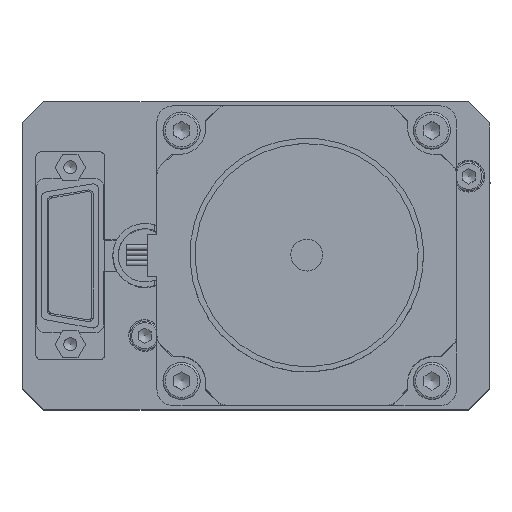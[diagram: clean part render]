
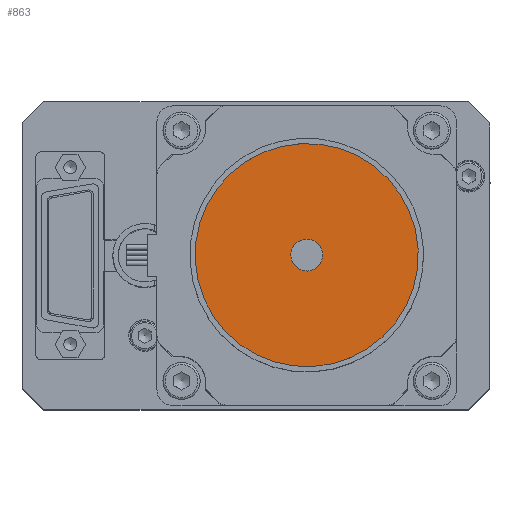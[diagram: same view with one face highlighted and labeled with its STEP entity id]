
A CAD part, top view. The second image highlights one B-rep face of the part: STEP entity #863.
In plain terms, the highlighted planar face has unit normal (0, 0, 1).
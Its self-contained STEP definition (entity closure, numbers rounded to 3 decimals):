
#665=CARTESIAN_POINT('',(27.733,24.806,129.5));
#666=VERTEX_POINT('',#665);
#667=CARTESIAN_POINT('',(28.912,22.048,129.5));
#668=DIRECTION('',(0.,0.,1.));
#669=DIRECTION('',(-0.393,0.919,0.));
#670=AXIS2_PLACEMENT_3D('',#667,#668,#669);
#671=CIRCLE('',#670,3.0);
#672=EDGE_CURVE('',#666,#666,#671,.T.);
#837=CARTESIAN_POINT('',(20.656,41.356,129.5));
#838=VERTEX_POINT('',#837);
#839=CARTESIAN_POINT('',(28.912,22.048,129.5));
#840=DIRECTION('',(0.,0.,1.0));
#841=DIRECTION('',(-0.393,0.919,0.));
#842=AXIS2_PLACEMENT_3D('',#839,#840,#841);
#843=CIRCLE('',#842,21.);
#844=EDGE_CURVE('',#838,#838,#843,.T.);
#852=CARTESIAN_POINT('',(24.194,33.081,129.5));
#853=DIRECTION('',(0.0,0.0,1.0));
#854=DIRECTION('',(0.919,0.393,0.0));
#855=AXIS2_PLACEMENT_3D('',#852,#853,#854);
#856=PLANE('',#855);
#857=ORIENTED_EDGE('',*,*,#844,.T.);
#858=EDGE_LOOP('',(#857));
#859=FACE_OUTER_BOUND('',#858,.T.);
#860=ORIENTED_EDGE('',*,*,#672,.F.);
#861=EDGE_LOOP('',(#860));
#862=FACE_BOUND('',#861,.T.);
#863=ADVANCED_FACE('',(#859,#862),#856,.T.);
